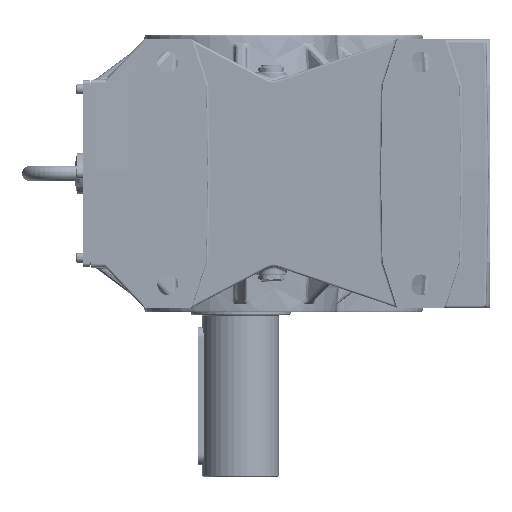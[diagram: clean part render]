
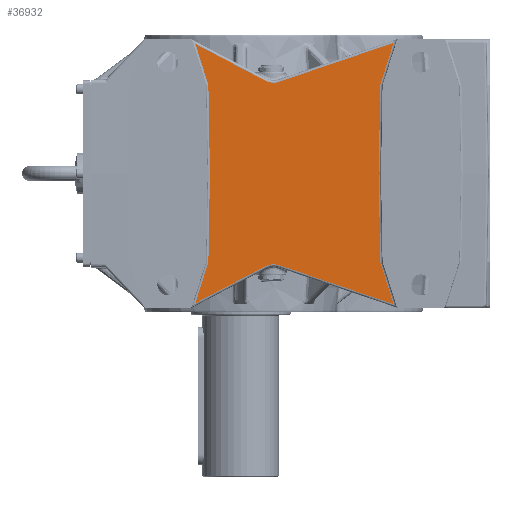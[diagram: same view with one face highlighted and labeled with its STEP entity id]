
A CAD part, left-side view. The second image highlights one B-rep face of the part: STEP entity #36932.
In plain terms, the highlighted planar face has unit normal (-1, 0, 0).
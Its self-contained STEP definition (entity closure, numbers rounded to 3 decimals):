
#34997=CARTESIAN_POINT('',(-225.0,58.933,-168.937));
#34998=VERTEX_POINT('',#34997);
#35006=CARTESIAN_POINT('',(-225.0,42.008,-115.489));
#35007=VERTEX_POINT('',#35006);
#35008=CARTESIAN_POINT('',(-225.,58.933,-168.937));
#35009=DIRECTION('',(0.,-0.302,0.953));
#35010=VECTOR('',#35009,56.064);
#35011=LINE('',#35008,#35010);
#35012=EDGE_CURVE('',#34998,#35007,#35011,.T.);
#35301=CARTESIAN_POINT('',(-225.0,42.008,115.489));
#35302=VERTEX_POINT('',#35301);
#35310=CARTESIAN_POINT('',(-225.0,58.933,168.937));
#35311=VERTEX_POINT('',#35310);
#35312=CARTESIAN_POINT('',(-225.0,42.008,115.489));
#35313=DIRECTION('',(0.,0.302,0.953));
#35314=VECTOR('',#35313,56.064);
#35315=LINE('',#35312,#35314);
#35316=EDGE_CURVE('',#35302,#35311,#35315,.T.);
#36613=CARTESIAN_POINT('',(-225.,-50.27,-119.497));
#36614=VERTEX_POINT('',#36613);
#36623=CARTESIAN_POINT('',(-225.,-199.348,-170.247));
#36624=VERTEX_POINT('',#36623);
#36632=CARTESIAN_POINT('',(-225.,-199.348,-170.247));
#36633=DIRECTION('',(0.,0.947,0.322));
#36634=VECTOR('',#36633,157.48);
#36635=LINE('',#36632,#36634);
#36636=EDGE_CURVE('',#36624,#36614,#36635,.T.);
#36646=CARTESIAN_POINT('',(-225.,-32.131,-120.924));
#36647=VERTEX_POINT('',#36646);
#36657=CARTESIAN_POINT('',(-225.,-42.858,-141.27));
#36658=DIRECTION('',(-1.0,0.,0.));
#36659=DIRECTION('',(0.,0.078,0.997));
#36660=AXIS2_PLACEMENT_3D('',#36657,#36658,#36659);
#36661=CIRCLE('',#36660,23.);
#36662=EDGE_CURVE('',#36614,#36647,#36661,.T.);
#36717=CARTESIAN_POINT('',(-225.,-32.131,-120.924));
#36718=DIRECTION('',(0.,0.885,-0.466));
#36719=VECTOR('',#36718,102.946);
#36720=LINE('',#36717,#36719);
#36721=EDGE_CURVE('',#36647,#34998,#36720,.T.);
#36839=CARTESIAN_POINT('',(-225.,-182.008,-115.489));
#36840=VERTEX_POINT('',#36839);
#36848=CARTESIAN_POINT('',(-225.,-182.008,-115.489));
#36849=DIRECTION('',(0.0,-0.302,-0.953));
#36850=VECTOR('',#36849,57.438);
#36851=LINE('',#36848,#36850);
#36852=EDGE_CURVE('',#36840,#36624,#36851,.T.);
#36858=CARTESIAN_POINT('',(-225.,-320.,0.0));
#36859=DIRECTION('',(-1.0,0.0,0.0));
#36860=DIRECTION('',(0.0,0.0,1.0));
#36861=AXIS2_PLACEMENT_3D('',#36858,#36859,#36860);
#36862=PLANE('',#36861);
#36863=ORIENTED_EDGE('',*,*,#36636,.F.);
#36864=ORIENTED_EDGE('',*,*,#36852,.F.);
#36865=CARTESIAN_POINT('',(-225.,-179.992,0.));
#36866=VERTEX_POINT('',#36865);
#36867=CARTESIAN_POINT('',(-225.,-179.992,0.));
#36868=DIRECTION('',(0.0,-0.017,-1.));
#36869=VECTOR('',#36868,115.507);
#36870=LINE('',#36867,#36869);
#36871=EDGE_CURVE('',#36866,#36840,#36870,.T.);
#36872=ORIENTED_EDGE('',*,*,#36871,.F.);
#36873=CARTESIAN_POINT('',(-225.,-182.008,115.489));
#36874=VERTEX_POINT('',#36873);
#36875=CARTESIAN_POINT('',(-225.,-182.008,115.489));
#36876=DIRECTION('',(0.0,0.017,-1.));
#36877=VECTOR('',#36876,115.507);
#36878=LINE('',#36875,#36877);
#36879=EDGE_CURVE('',#36874,#36866,#36878,.T.);
#36880=ORIENTED_EDGE('',*,*,#36879,.F.);
#36881=CARTESIAN_POINT('',(-225.,-199.348,170.247));
#36882=VERTEX_POINT('',#36881);
#36883=CARTESIAN_POINT('',(-225.,-199.348,170.247));
#36884=DIRECTION('',(0.0,0.302,-0.953));
#36885=VECTOR('',#36884,57.438);
#36886=LINE('',#36883,#36885);
#36887=EDGE_CURVE('',#36882,#36874,#36886,.T.);
#36888=ORIENTED_EDGE('',*,*,#36887,.F.);
#36889=CARTESIAN_POINT('',(-225.,-50.27,119.497));
#36890=VERTEX_POINT('',#36889);
#36891=CARTESIAN_POINT('',(-225.,-50.27,119.497));
#36892=DIRECTION('',(0.,-0.947,0.322));
#36893=VECTOR('',#36892,157.48);
#36894=LINE('',#36891,#36893);
#36895=EDGE_CURVE('',#36890,#36882,#36894,.T.);
#36896=ORIENTED_EDGE('',*,*,#36895,.F.);
#36897=CARTESIAN_POINT('',(-225.,-32.131,120.924));
#36898=VERTEX_POINT('',#36897);
#36899=CARTESIAN_POINT('',(-225.,-42.858,141.27));
#36900=DIRECTION('',(-1.0,0.,0.));
#36901=DIRECTION('',(0.,0.078,-0.997));
#36902=AXIS2_PLACEMENT_3D('',#36899,#36900,#36901);
#36903=CIRCLE('',#36902,23.);
#36904=EDGE_CURVE('',#36898,#36890,#36903,.T.);
#36905=ORIENTED_EDGE('',*,*,#36904,.F.);
#36906=CARTESIAN_POINT('',(-225.,58.933,168.937));
#36907=DIRECTION('',(0.,-0.885,-0.466));
#36908=VECTOR('',#36907,102.946);
#36909=LINE('',#36906,#36908);
#36910=EDGE_CURVE('',#35311,#36898,#36909,.T.);
#36911=ORIENTED_EDGE('',*,*,#36910,.F.);
#36912=ORIENTED_EDGE('',*,*,#35316,.F.);
#36913=CARTESIAN_POINT('',(-225.0,39.992,0.));
#36914=VERTEX_POINT('',#36913);
#36915=CARTESIAN_POINT('',(-225.0,39.992,0.));
#36916=DIRECTION('',(0.0,0.017,1.));
#36917=VECTOR('',#36916,115.507);
#36918=LINE('',#36915,#36917);
#36919=EDGE_CURVE('',#36914,#35302,#36918,.T.);
#36920=ORIENTED_EDGE('',*,*,#36919,.F.);
#36921=CARTESIAN_POINT('',(-225.0,42.008,-115.489));
#36922=DIRECTION('',(0.0,-0.017,1.));
#36923=VECTOR('',#36922,115.507);
#36924=LINE('',#36921,#36923);
#36925=EDGE_CURVE('',#35007,#36914,#36924,.T.);
#36926=ORIENTED_EDGE('',*,*,#36925,.F.);
#36927=ORIENTED_EDGE('',*,*,#35012,.F.);
#36928=ORIENTED_EDGE('',*,*,#36721,.F.);
#36929=ORIENTED_EDGE('',*,*,#36662,.F.);
#36930=EDGE_LOOP('',(#36863,#36864,#36872,#36880,#36888,#36896,#36905,#36911,#36912,#36920,#36926,#36927,#36928,#36929));
#36931=FACE_OUTER_BOUND('',#36930,.T.);
#36932=ADVANCED_FACE('',(#36931),#36862,.T.);
